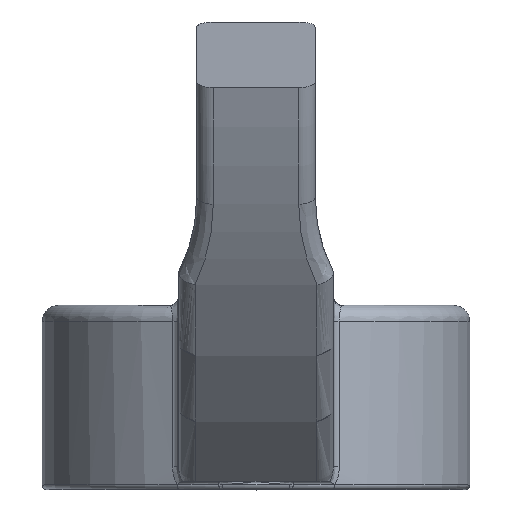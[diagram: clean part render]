
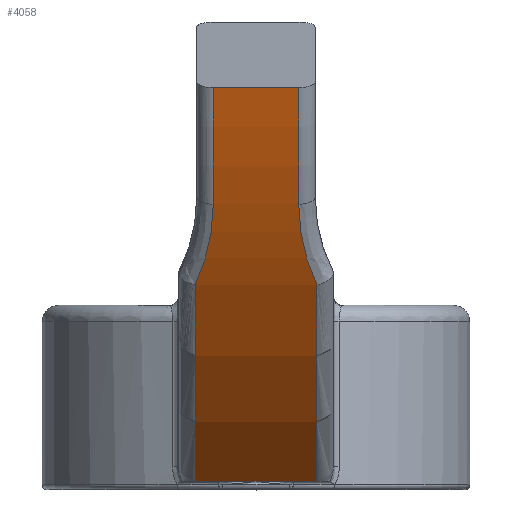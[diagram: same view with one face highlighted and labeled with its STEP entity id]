
A CAD part, top view. The second image highlights one B-rep face of the part: STEP entity #4058.
In plain terms, the highlighted cylindrical face has radius 26 mm (diameter 52 mm), a partial arc.
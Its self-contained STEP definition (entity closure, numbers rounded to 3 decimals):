
#17 = VERTEX_POINT ( 'NONE', #1783 ) ;
#22 = CARTESIAN_POINT ( 'NONE',  ( 2.35, 0.238, 6.5 ) ) ;
#34 = CARTESIAN_POINT ( 'NONE',  ( 1.85, 6.21, 11.865 ) ) ;
#138 = CARTESIAN_POINT ( 'NONE',  ( -1.85, 6.21, 11.865 ) ) ;
#170 = DIRECTION ( 'NONE',  ( -1., 0., 0. ) ) ;
#184 = VERTEX_POINT ( 'NONE', #138 ) ;
#206 = LINE ( 'NONE', #3238, #4771 ) ;
#211 = ORIENTED_EDGE ( 'NONE', *, *, #3049, .F. ) ;
#248 = DIRECTION ( 'NONE',  ( 1., 0., 0. ) ) ;
#257 = CARTESIAN_POINT ( 'NONE',  ( 1.85, 20.392, -9.926 ) ) ;
#265 = DIRECTION ( 'NONE',  ( 0., 0., 1. ) ) ;
#274 = DIRECTION ( 'NONE',  ( -1., 0., 0. ) ) ;
#329 = ORIENTED_EDGE ( 'NONE', *, *, #1529, .T. ) ;
#400 = EDGE_CURVE ( 'NONE', #3662, #184, #2911, .T. ) ;
#437 = VERTEX_POINT ( 'NONE', #2199 ) ;
#452 = VECTOR ( 'NONE', #3203, 1000. ) ;
#463 = CIRCLE ( 'NONE', #2242, 26. ) ;
#489 = EDGE_CURVE ( 'NONE', #4212, #3662, #2535, .T. ) ;
#495 = B_SPLINE_CURVE_WITH_KNOTS ( 'NONE', 3,
 ( #34, #3068, #2994, #1150, #1563, #1216 ),
 .UNSPECIFIED., .F., .F.,
 ( 4, 2, 4 ),
 ( 0., 0.001, 0.003 ),
 .UNSPECIFIED. ) ;
#564 = DIRECTION ( 'NONE',  ( -1., 0., 0. ) ) ;
#757 = VECTOR ( 'NONE', #3613, 1000. ) ;
#760 = VECTOR ( 'NONE', #1524, 1000. ) ;
#766 = ORIENTED_EDGE ( 'NONE', *, *, #3543, .F. ) ;
#972 = CARTESIAN_POINT ( 'NONE',  ( 2.35, 12.2, 14.75 ) ) ;
#993 = CIRCLE ( 'NONE', #4056, 26. ) ;
#1043 = CARTESIAN_POINT ( 'NONE',  ( -1.3, 8.654, 13.274 ) ) ;
#1108 = ORIENTED_EDGE ( 'NONE', *, *, #1968, .T. ) ;
#1150 = CARTESIAN_POINT ( 'NONE',  ( 1.349, 7.797, 12.825 ) ) ;
#1216 = CARTESIAN_POINT ( 'NONE',  ( 1.3, 8.654, 13.274 ) ) ;
#1434 = CIRCLE ( 'NONE', #4815, 26. ) ;
#1498 = VERTEX_POINT ( 'NONE', #3929 ) ;
#1524 = DIRECTION ( 'NONE',  ( -1., 0., 0. ) ) ;
#1529 = EDGE_CURVE ( 'NONE', #4047, #4212, #4008, .T. ) ;
#1559 = AXIS2_PLACEMENT_3D ( 'NONE', #3256, #274, #4020 ) ;
#1563 = CARTESIAN_POINT ( 'NONE',  ( 1.3, 8.218, 13.053 ) ) ;
#1663 = VERTEX_POINT ( 'NONE', #2954 ) ;
#1770 = CARTESIAN_POINT ( 'NONE',  ( 1.3, 12.2, 14.75 ) ) ;
#1783 = CARTESIAN_POINT ( 'NONE',  ( 1.85, 6.21, 11.865 ) ) ;
#1968 = EDGE_CURVE ( 'NONE', #3461, #4047, #993, .T. ) ;
#2018 = DIRECTION ( 'NONE',  ( 0., 0., -1. ) ) ;
#2070 = CARTESIAN_POINT ( 'NONE',  ( 2.35, 0.238, 6.5 ) ) ;
#2080 = LINE ( 'NONE', #3601, #452 ) ;
#2102 = ORIENTED_EDGE ( 'NONE', *, *, #489, .T. ) ;
#2153 = CARTESIAN_POINT ( 'NONE',  ( -1.534, 6.983, 12.355 ) ) ;
#2199 = CARTESIAN_POINT ( 'NONE',  ( -1.145, 0.238, 6.5 ) ) ;
#2221 = CARTESIAN_POINT ( 'NONE',  ( 1.3, 20.392, -9.926 ) ) ;
#2242 = AXIS2_PLACEMENT_3D ( 'NONE', #4355, #248, #3251 ) ;
#2272 = ORIENTED_EDGE ( 'NONE', *, *, #2292, .F. ) ;
#2292 = EDGE_CURVE ( 'NONE', #1498, #1663, #4622, .T. ) ;
#2489 = CYLINDRICAL_SURFACE ( 'NONE', #1559, 26. ) ;
#2535 = CIRCLE ( 'NONE', #3581, 26. ) ;
#2538 = VECTOR ( 'NONE', #564, 1000. ) ;
#2730 = CARTESIAN_POINT ( 'NONE',  ( 1.3, 8.654, 13.274 ) ) ;
#2864 = DIRECTION ( 'NONE',  ( 0., 0., -1. ) ) ;
#2870 = EDGE_LOOP ( 'NONE', ( #4275, #4620, #211, #766, #2272, #4613, #3241, #3126, #1108, #329, #2102 ) ) ;
#2911 = B_SPLINE_CURVE_WITH_KNOTS ( 'NONE', 3,
 ( #1043, #4408, #4806, #2153, #3694, #3670 ),
 .UNSPECIFIED., .F., .F.,
 ( 4, 2, 4 ),
 ( 0., 0.001, 0.003 ),
 .UNSPECIFIED. ) ;
#2954 = CARTESIAN_POINT ( 'NONE',  ( 0., 0.238, 6.5 ) ) ;
#2994 = CARTESIAN_POINT ( 'NONE',  ( 1.534, 6.983, 12.355 ) ) ;
#3041 = EDGE_CURVE ( 'NONE', #3320, #1498, #2080, .T. ) ;
#3049 = EDGE_CURVE ( 'NONE', #437, #4246, #3382, .T. ) ;
#3068 = CARTESIAN_POINT ( 'NONE',  ( 1.669, 6.59, 12.113 ) ) ;
#3106 = CARTESIAN_POINT ( 'NONE',  ( -1.3, 12.2, 14.75 ) ) ;
#3126 = ORIENTED_EDGE ( 'NONE', *, *, #3128, .T. ) ;
#3128 = EDGE_CURVE ( 'NONE', #17, #3461, #495, .T. ) ;
#3202 = FACE_OUTER_BOUND ( 'NONE', #2870, .T. ) ;
#3203 = DIRECTION ( 'NONE',  ( -1., 0., 0. ) ) ;
#3228 = EDGE_CURVE ( 'NONE', #184, #4246, #463, .T. ) ;
#3238 = CARTESIAN_POINT ( 'NONE',  ( 2.35, 0.238, 6.5 ) ) ;
#3241 = ORIENTED_EDGE ( 'NONE', *, *, #4827, .T. ) ;
#3251 = DIRECTION ( 'NONE',  ( 0., 0., -1. ) ) ;
#3256 = CARTESIAN_POINT ( 'NONE',  ( 2.35, 20.392, -9.926 ) ) ;
#3296 = CARTESIAN_POINT ( 'NONE',  ( -1.3, 20.392, -9.926 ) ) ;
#3320 = VERTEX_POINT ( 'NONE', #4011 ) ;
#3382 = LINE ( 'NONE', #22, #760 ) ;
#3461 = VERTEX_POINT ( 'NONE', #2730 ) ;
#3543 = EDGE_CURVE ( 'NONE', #1663, #437, #206, .T. ) ;
#3581 = AXIS2_PLACEMENT_3D ( 'NONE', #3296, #4500, #265 ) ;
#3601 = CARTESIAN_POINT ( 'NONE',  ( 2.35, 0.238, 6.5 ) ) ;
#3613 = DIRECTION ( 'NONE',  ( -1., 0., 0. ) ) ;
#3662 = VERTEX_POINT ( 'NONE', #3721 ) ;
#3670 = CARTESIAN_POINT ( 'NONE',  ( -1.85, 6.21, 11.865 ) ) ;
#3673 = DIRECTION ( 'NONE',  ( -1., 0., 0. ) ) ;
#3694 = CARTESIAN_POINT ( 'NONE',  ( -1.669, 6.59, 12.113 ) ) ;
#3721 = CARTESIAN_POINT ( 'NONE',  ( -1.3, 8.654, 13.274 ) ) ;
#3929 = CARTESIAN_POINT ( 'NONE',  ( 1.145, 0.238, 6.5 ) ) ;
#4008 = LINE ( 'NONE', #972, #757 ) ;
#4011 = CARTESIAN_POINT ( 'NONE',  ( 1.85, 0.238, 6.5 ) ) ;
#4020 = DIRECTION ( 'NONE',  ( 0., 0., 1. ) ) ;
#4047 = VERTEX_POINT ( 'NONE', #1770 ) ;
#4056 = AXIS2_PLACEMENT_3D ( 'NONE', #2221, #170, #2018 ) ;
#4058 = ADVANCED_FACE ( 'NONE', ( #3202 ), #2489, .T. ) ;
#4212 = VERTEX_POINT ( 'NONE', #3106 ) ;
#4246 = VERTEX_POINT ( 'NONE', #4553 ) ;
#4275 = ORIENTED_EDGE ( 'NONE', *, *, #400, .T. ) ;
#4355 = CARTESIAN_POINT ( 'NONE',  ( -1.85, 20.392, -9.926 ) ) ;
#4408 = CARTESIAN_POINT ( 'NONE',  ( -1.3, 8.218, 13.053 ) ) ;
#4500 = DIRECTION ( 'NONE',  ( 1., 0., 0. ) ) ;
#4553 = CARTESIAN_POINT ( 'NONE',  ( -1.85, 0.238, 6.5 ) ) ;
#4613 = ORIENTED_EDGE ( 'NONE', *, *, #3041, .F. ) ;
#4620 = ORIENTED_EDGE ( 'NONE', *, *, #3228, .T. ) ;
#4622 = LINE ( 'NONE', #2070, #2538 ) ;
#4763 = DIRECTION ( 'NONE',  ( -1., 0., 0. ) ) ;
#4771 = VECTOR ( 'NONE', #3673, 1000. ) ;
#4806 = CARTESIAN_POINT ( 'NONE',  ( -1.349, 7.797, 12.825 ) ) ;
#4815 = AXIS2_PLACEMENT_3D ( 'NONE', #257, #4763, #2864 ) ;
#4827 = EDGE_CURVE ( 'NONE', #3320, #17, #1434, .T. ) ;
